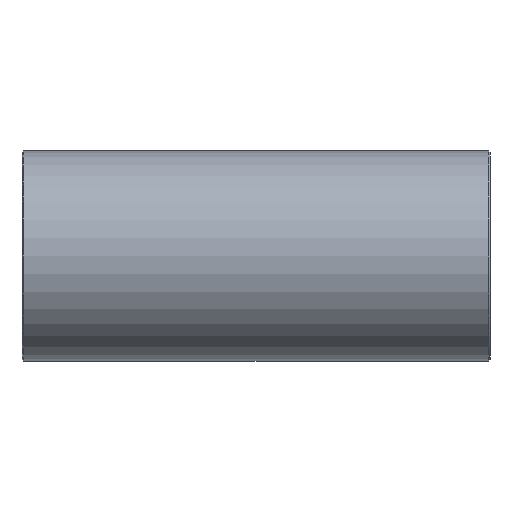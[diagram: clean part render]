
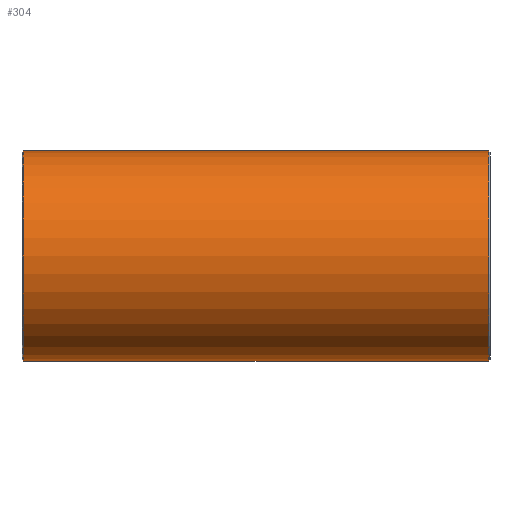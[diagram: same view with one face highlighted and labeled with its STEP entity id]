
A CAD part, front view. The second image highlights one B-rep face of the part: STEP entity #304.
In plain terms, the highlighted cylindrical face has radius 16.25 mm (diameter 32.5 mm), a full revolution.
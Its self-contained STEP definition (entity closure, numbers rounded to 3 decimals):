
#121=CARTESIAN_POINT('',(0.0,0.0,16.25));
#122=VERTEX_POINT('',#121);
#123=CARTESIAN_POINT('',(0.0,0.0,-16.25));
#124=VERTEX_POINT('',#123);
#221=CARTESIAN_POINT('',(-36.,16.25,0.));
#222=VERTEX_POINT('',#221);
#223=CARTESIAN_POINT('',(-36.,0.0,0.0));
#224=DIRECTION('',(-1.0,0.0,0.0));
#225=DIRECTION('',(0.0,-1.0,0.0));
#226=AXIS2_PLACEMENT_3D('',#223,#224,#225);
#227=CIRCLE('',#226,16.25);
#228=EDGE_CURVE('',#222,#222,#227,.T.);
#233=CARTESIAN_POINT('',(0.0,0.0,0.0));
#234=DIRECTION('',(1.0,0.0,0.0));
#235=DIRECTION('',(0.0,1.0,0.0));
#236=AXIS2_PLACEMENT_3D('',#233,#234,#235);
#237=CYLINDRICAL_SURFACE('',#236,16.25);
#238=CARTESIAN_POINT('',(36.0,16.25,0.));
#239=VERTEX_POINT('',#238);
#240=CARTESIAN_POINT('',(36.0,0.0,0.0));
#241=DIRECTION('',(1.0,0.0,0.0));
#242=DIRECTION('',(0.0,-1.0,0.0));
#243=AXIS2_PLACEMENT_3D('',#240,#241,#242);
#244=CIRCLE('',#243,16.25);
#245=EDGE_CURVE('',#239,#239,#244,.T.);
#246=ORIENTED_EDGE('',*,*,#245,.F.);
#247=EDGE_LOOP('',(#246));
#248=FACE_OUTER_BOUND('',#247,.T.);
#249=CARTESIAN_POINT('',(16.469,13.216,9.455));
#250=VERTEX_POINT('',#249);
#251=CARTESIAN_POINT('',(0.0,0.0,0.0));
#252=DIRECTION('',(-0.626,0.78,0.0));
#253=DIRECTION('',(0.78,0.626,0.0));
#254=AXIS2_PLACEMENT_3D('',#251,#252,#253);
#255=ELLIPSE('',#254,25.964,16.25);
#256=EDGE_CURVE('',#122,#250,#255,.T.);
#257=ORIENTED_EDGE('',*,*,#256,.F.);
#258=CARTESIAN_POINT('',(-16.469,13.216,9.455));
#259=VERTEX_POINT('',#258);
#260=CARTESIAN_POINT('',(0.0,0.0,0.0));
#261=DIRECTION('',(0.626,0.78,0.0));
#262=DIRECTION('',(-0.78,0.626,0.0));
#263=AXIS2_PLACEMENT_3D('',#260,#261,#262);
#264=ELLIPSE('',#263,25.964,16.25);
#265=EDGE_CURVE('',#259,#122,#264,.T.);
#266=ORIENTED_EDGE('',*,*,#265,.F.);
#267=CARTESIAN_POINT('',(-16.469,13.216,-9.455));
#268=VERTEX_POINT('',#267);
#269=CARTESIAN_POINT('',(0.0,0.0,0.0));
#270=DIRECTION('',(0.626,0.78,0.0));
#271=DIRECTION('',(-0.78,0.626,0.0));
#272=AXIS2_PLACEMENT_3D('',#269,#270,#271);
#273=ELLIPSE('',#272,25.964,16.25);
#274=EDGE_CURVE('',#268,#259,#273,.T.);
#275=ORIENTED_EDGE('',*,*,#274,.F.);
#276=CARTESIAN_POINT('',(0.0,0.0,0.0));
#277=DIRECTION('',(0.626,0.78,0.0));
#278=DIRECTION('',(-0.78,0.626,0.0));
#279=AXIS2_PLACEMENT_3D('',#276,#277,#278);
#280=ELLIPSE('',#279,25.964,16.25);
#281=EDGE_CURVE('',#124,#268,#280,.T.);
#282=ORIENTED_EDGE('',*,*,#281,.F.);
#283=CARTESIAN_POINT('',(16.469,13.216,-9.455));
#284=VERTEX_POINT('',#283);
#285=CARTESIAN_POINT('',(0.0,0.0,0.0));
#286=DIRECTION('',(-0.626,0.78,0.0));
#287=DIRECTION('',(0.78,0.626,0.0));
#288=AXIS2_PLACEMENT_3D('',#285,#286,#287);
#289=ELLIPSE('',#288,25.964,16.25);
#290=EDGE_CURVE('',#284,#124,#289,.T.);
#291=ORIENTED_EDGE('',*,*,#290,.F.);
#292=CARTESIAN_POINT('',(0.0,0.0,0.0));
#293=DIRECTION('',(-0.626,0.78,0.0));
#294=DIRECTION('',(0.78,0.626,0.0));
#295=AXIS2_PLACEMENT_3D('',#292,#293,#294);
#296=ELLIPSE('',#295,25.964,16.25);
#297=EDGE_CURVE('',#250,#284,#296,.T.);
#298=ORIENTED_EDGE('',*,*,#297,.F.);
#299=EDGE_LOOP('',(#257,#266,#275,#282,#291,#298));
#300=FACE_BOUND('',#299,.T.);
#301=ORIENTED_EDGE('',*,*,#228,.F.);
#302=EDGE_LOOP('',(#301));
#303=FACE_BOUND('',#302,.T.);
#304=ADVANCED_FACE('',(#248,#300,#303),#237,.T.);
